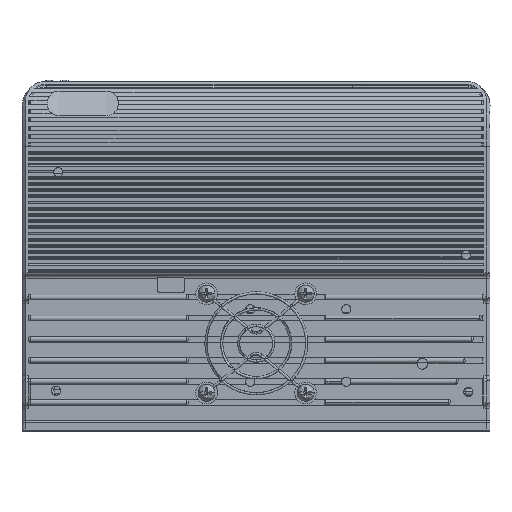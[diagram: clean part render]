
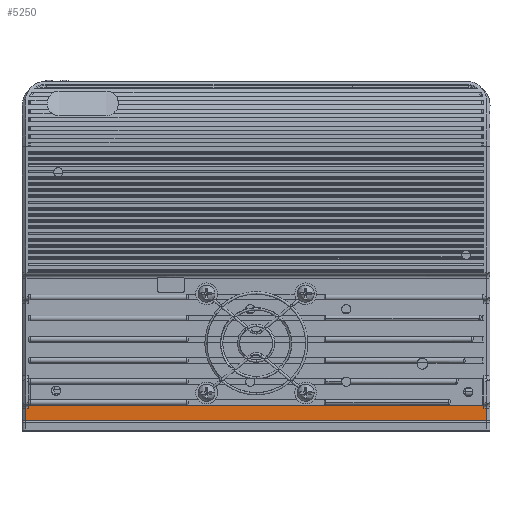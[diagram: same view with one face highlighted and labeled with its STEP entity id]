
A CAD part, left-side view. The second image highlights one B-rep face of the part: STEP entity #5250.
In plain terms, the highlighted planar face has unit normal (-1, 0, 0).
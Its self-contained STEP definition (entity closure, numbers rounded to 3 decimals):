
#4765 = B_SPLINE_CURVE_WITH_KNOTS ( 'NONE', 3,
 ( #85793, #68054, #103426, #226535, #121153, #15896, #138809, #33502, #156507, #51130, #174247, #68805 ),
 .UNSPECIFIED., .F., .F.,
 ( 4, 2, 2, 2, 2, 4 ),
 ( 0., 0.25, 0.375, 0.5, 0.75, 1. ),
 .UNSPECIFIED. ) ;
#5250 = ADVANCED_FACE ( 'NONE', ( #226035 ), #227995, .F. ) ;
#12967 = CARTESIAN_POINT ( 'NONE',  ( 20.8, 149.9, -12.4 ) ) ;
#13654 = CARTESIAN_POINT ( 'NONE',  ( 20.8, 75.5, -12.5 ) ) ;
#14518 = CARTESIAN_POINT ( 'NONE',  ( 20.8, 1.1, -9.75 ) ) ;
#15896 = CARTESIAN_POINT ( 'NONE',  ( 20.8, 148.804, -7.398 ) ) ;
#17256 = CARTESIAN_POINT ( 'NONE',  ( 20.8, 149.9, -10.45 ) ) ;
#17393 = EDGE_CURVE ( 'NONE', #120794, #118793, #185649, .T. ) ;
#17557 = CARTESIAN_POINT ( 'NONE',  ( 20.8, 1.1, -12.4 ) ) ;
#18459 = VERTEX_POINT ( 'NONE', #208564 ) ;
#19160 = VECTOR ( 'NONE', #67104, 1000. ) ;
#20632 = CARTESIAN_POINT ( 'NONE',  ( 20.8, 2., -12.4 ) ) ;
#25539 = VERTEX_POINT ( 'NONE', #115662 ) ;
#28150 = CARTESIAN_POINT ( 'NONE',  ( 20.8, 2., -8.5 ) ) ;
#30050 = VERTEX_POINT ( 'NONE', #12967 ) ;
#31957 = VERTEX_POINT ( 'NONE', #192763 ) ;
#33502 = CARTESIAN_POINT ( 'NONE',  ( 20.8, 148.9, -7.308 ) ) ;
#33815 = EDGE_CURVE ( 'NONE', #25539, #18459, #64277, .T. ) ;
#34928 = DIRECTION ( 'NONE',  ( 1., 0., 0. ) ) ;
#38500 = VECTOR ( 'NONE', #157904, 1000. ) ;
#39585 = CARTESIAN_POINT ( 'NONE',  ( 20.8, 148.5, -7.5 ) ) ;
#39964 = CARTESIAN_POINT ( 'NONE',  ( 20.8, 149., -7.5 ) ) ;
#50010 = VECTOR ( 'NONE', #88178, 1000. ) ;
#51130 = CARTESIAN_POINT ( 'NONE',  ( 20.8, 148.987, -7.131 ) ) ;
#51171 = CARTESIAN_POINT ( 'NONE',  ( 20.8, 149., -7. ) ) ;
#53404 = B_SPLINE_CURVE_WITH_KNOTS ( 'NONE', 3,
 ( #127630, #39964, #180709, #75338 ),
 .UNSPECIFIED., .F., .F.,
 ( 4, 4 ),
 ( 0., 1. ),
 .UNSPECIFIED. ) ;
#57637 = ORIENTED_EDGE ( 'NONE', *, *, #148668, .T. ) ;
#59911 = CARTESIAN_POINT ( 'NONE',  ( 20.8, 75.5, -8.5 ) ) ;
#62005 = EDGE_CURVE ( 'NONE', #164341, #146066, #212920, .T. ) ;
#63585 = VECTOR ( 'NONE', #197393, 1000. ) ;
#64277 = LINE ( 'NONE', #134152, #188139 ) ;
#67104 = DIRECTION ( 'NONE',  ( 0., -1., 0. ) ) ;
#67443 = VERTEX_POINT ( 'NONE', #20632 ) ;
#68054 = CARTESIAN_POINT ( 'NONE',  ( 20.8, 148.566, -7.5 ) ) ;
#68805 = CARTESIAN_POINT ( 'NONE',  ( 20.8, 149., -7. ) ) ;
#69095 = LINE ( 'NONE', #126639, #63585 ) ;
#70862 = AXIS2_PLACEMENT_3D ( 'NONE', #86511, #34928, #157983 ) ;
#75338 = CARTESIAN_POINT ( 'NONE',  ( 20.8, 149., -8.5 ) ) ;
#78057 = VECTOR ( 'NONE', #84374, 1000. ) ;
#79974 = EDGE_CURVE ( 'NONE', #30050, #25539, #90822, .T. ) ;
#84374 = DIRECTION ( 'NONE',  ( 0., 0., -1. ) ) ;
#85793 = CARTESIAN_POINT ( 'NONE',  ( 20.8, 148.5, -7.5 ) ) ;
#86511 = CARTESIAN_POINT ( 'NONE',  ( 20.8, 152.876, -12.741 ) ) ;
#87025 = CARTESIAN_POINT ( 'NONE',  ( 20.8, 149., -9.75 ) ) ;
#88178 = DIRECTION ( 'NONE',  ( 0., 0., -1. ) ) ;
#89960 = LINE ( 'NONE', #211161, #136746 ) ;
#90822 = LINE ( 'NONE', #17256, #38500 ) ;
#94581 = DIRECTION ( 'NONE',  ( 0., -1., 0. ) ) ;
#96582 = VERTEX_POINT ( 'NONE', #51171 ) ;
#102304 = LINE ( 'NONE', #175876, #50010 ) ;
#103426 = CARTESIAN_POINT ( 'NONE',  ( 20.8, 148.631, -7.486 ) ) ;
#107687 = ORIENTED_EDGE ( 'NONE', *, *, #227842, .T. ) ;
#115662 = CARTESIAN_POINT ( 'NONE',  ( 20.8, 149.9, -8.5 ) ) ;
#117016 = EDGE_CURVE ( 'NONE', #171993, #31957, #185249, .T. ) ;
#118793 = VERTEX_POINT ( 'NONE', #221473 ) ;
#119873 = ORIENTED_EDGE ( 'NONE', *, *, #163895, .T. ) ;
#120794 = VERTEX_POINT ( 'NONE', #39585 ) ;
#121015 = EDGE_CURVE ( 'NONE', #30050, #31957, #159442, .T. ) ;
#121153 = CARTESIAN_POINT ( 'NONE',  ( 20.8, 148.75, -7.435 ) ) ;
#126639 = CARTESIAN_POINT ( 'NONE',  ( 20.8, 75.5, -12.4 ) ) ;
#127376 = EDGE_CURVE ( 'NONE', #118793, #214083, #89960, .T. ) ;
#127630 = CARTESIAN_POINT ( 'NONE',  ( 20.8, 149., -7. ) ) ;
#130576 = CARTESIAN_POINT ( 'NONE',  ( 20.8, 75.5, -7.5 ) ) ;
#130774 = ORIENTED_EDGE ( 'NONE', *, *, #193564, .F. ) ;
#134152 = CARTESIAN_POINT ( 'NONE',  ( 20.8, 149.45, -8.5 ) ) ;
#135163 = ORIENTED_EDGE ( 'NONE', *, *, #186640, .F. ) ;
#136537 = DIRECTION ( 'NONE',  ( 0., 1., 0. ) ) ;
#136746 = VECTOR ( 'NONE', #175787, 1000. ) ;
#137085 = CARTESIAN_POINT ( 'NONE',  ( 20.8, 75.5, -12.4 ) ) ;
#137309 = LINE ( 'NONE', #13654, #195151 ) ;
#138395 = VECTOR ( 'NONE', #227763, 1000. ) ;
#138809 = CARTESIAN_POINT ( 'NONE',  ( 20.8, 148.831, -7.376 ) ) ;
#144293 = VECTOR ( 'NONE', #166017, 1000. ) ;
#146066 = VERTEX_POINT ( 'NONE', #17557 ) ;
#148078 = LINE ( 'NONE', #59911, #194853 ) ;
#148668 = EDGE_CURVE ( 'NONE', #96582, #18459, #53404, .T. ) ;
#149320 = ORIENTED_EDGE ( 'NONE', *, *, #33815, .F. ) ;
#156507 = CARTESIAN_POINT ( 'NONE',  ( 20.8, 148.937, -7.252 ) ) ;
#157904 = DIRECTION ( 'NONE',  ( 0., 0., 1. ) ) ;
#157983 = DIRECTION ( 'NONE',  ( 0., 0., 1. ) ) ;
#159442 = LINE ( 'NONE', #137085, #19160 ) ;
#163895 = EDGE_CURVE ( 'NONE', #120794, #96582, #4765, .T. ) ;
#164341 = VERTEX_POINT ( 'NONE', #175568 ) ;
#166017 = DIRECTION ( 'NONE',  ( 0., -1., 0. ) ) ;
#171993 = VERTEX_POINT ( 'NONE', #185386 ) ;
#174247 = CARTESIAN_POINT ( 'NONE',  ( 20.8, 149., -7.067 ) ) ;
#175568 = CARTESIAN_POINT ( 'NONE',  ( 20.8, 1.1, -8.5 ) ) ;
#175787 = DIRECTION ( 'NONE',  ( 0., 0., -1. ) ) ;
#175876 = CARTESIAN_POINT ( 'NONE',  ( 20.8, 2., -9.75 ) ) ;
#180623 = EDGE_LOOP ( 'NONE', ( #130774, #107687, #216406, #189112, #211560, #216407, #119873, #57637, #149320, #227249, #204267, #207005, #135163 ) ) ;
#180709 = CARTESIAN_POINT ( 'NONE',  ( 20.8, 149., -8. ) ) ;
#185249 = LINE ( 'NONE', #87025, #138395 ) ;
#185386 = CARTESIAN_POINT ( 'NONE',  ( 20.8, 149., -12.5 ) ) ;
#185649 = LINE ( 'NONE', #130576, #144293 ) ;
#186640 = EDGE_CURVE ( 'NONE', #211258, #171993, #137309, .T. ) ;
#188139 = VECTOR ( 'NONE', #223418, 1000. ) ;
#189112 = ORIENTED_EDGE ( 'NONE', *, *, #208930, .F. ) ;
#192763 = CARTESIAN_POINT ( 'NONE',  ( 20.8, 149., -12.4 ) ) ;
#193564 = EDGE_CURVE ( 'NONE', #67443, #211258, #102304, .T. ) ;
#194853 = VECTOR ( 'NONE', #94581, 1000. ) ;
#195151 = VECTOR ( 'NONE', #136537, 1000. ) ;
#197393 = DIRECTION ( 'NONE',  ( 0., -1., 0. ) ) ;
#204267 = ORIENTED_EDGE ( 'NONE', *, *, #121015, .T. ) ;
#207005 = ORIENTED_EDGE ( 'NONE', *, *, #117016, .F. ) ;
#208114 = CARTESIAN_POINT ( 'NONE',  ( 20.8, 2., -12.5 ) ) ;
#208564 = CARTESIAN_POINT ( 'NONE',  ( 20.8, 149., -8.5 ) ) ;
#208930 = EDGE_CURVE ( 'NONE', #214083, #164341, #148078, .T. ) ;
#211161 = CARTESIAN_POINT ( 'NONE',  ( 20.8, 2., -9.75 ) ) ;
#211258 = VERTEX_POINT ( 'NONE', #208114 ) ;
#211560 = ORIENTED_EDGE ( 'NONE', *, *, #127376, .F. ) ;
#212920 = LINE ( 'NONE', #14518, #78057 ) ;
#214083 = VERTEX_POINT ( 'NONE', #28150 ) ;
#216406 = ORIENTED_EDGE ( 'NONE', *, *, #62005, .F. ) ;
#216407 = ORIENTED_EDGE ( 'NONE', *, *, #17393, .F. ) ;
#221473 = CARTESIAN_POINT ( 'NONE',  ( 20.8, 2., -7.5 ) ) ;
#223418 = DIRECTION ( 'NONE',  ( 0., -1., 0. ) ) ;
#226035 = FACE_OUTER_BOUND ( 'NONE', #180623, .T. ) ;
#226535 = CARTESIAN_POINT ( 'NONE',  ( 20.8, 148.721, -7.45 ) ) ;
#227249 = ORIENTED_EDGE ( 'NONE', *, *, #79974, .F. ) ;
#227763 = DIRECTION ( 'NONE',  ( 0., 0., 1. ) ) ;
#227842 = EDGE_CURVE ( 'NONE', #67443, #146066, #69095, .T. ) ;
#227995 = PLANE ( 'NONE',  #70862 ) ;
